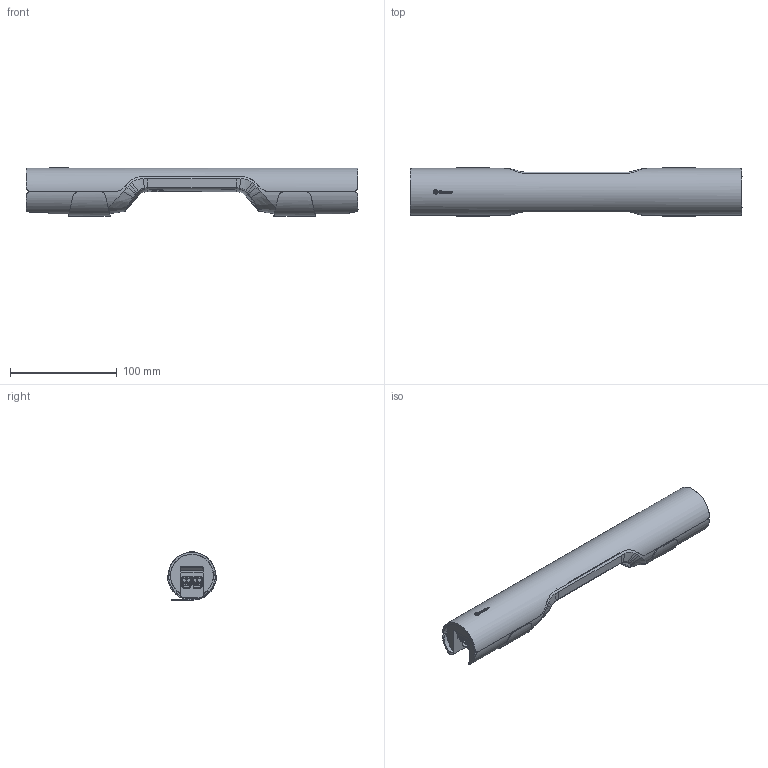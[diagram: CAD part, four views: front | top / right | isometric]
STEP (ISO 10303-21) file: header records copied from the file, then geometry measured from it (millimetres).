
FILE_DESCRIPTION(/* description */ ('Unknown'),/* implementation_level */ '2;1');
FILE_NAME(/* name */ '7L.4X.0.Y.0100',/* time_stamp */ '2020-09-24T14:02:11+02:00',/* author */ ('Unknown'),/* organization */ ('Unknown'),/* preprocessor_version */ 'ST-DEVELOPER v16.7',/* originating_system */ 'DEX',/* authorisation */ $);
FILE_SCHEMA (('AUTOMOTIVE_DESIGN {1 0 10303 214 3 1 1}'));
Products named in the file (1): 7L.4X.0.Y.0100
Bounding box: 310.57 x 46 x 45.23 mm (x, y, z)
Surface area: 71859.3 mm2 (no closed solid volume)
Topology: 0 solids, 19 shells, 1536 faces, 4906 edges, 3393 vertices
Faces by surface type: plane 1165, cylinder 186, bspline 156, torus 21, cone 5, sphere 3
Full cylindrical faces by diameter (mm): 1.75 x2, 3.3 x2, 4 x2, 4.2 x2, 4.25 x2, 4.263 x1
Entity records: 66794 total; most frequent: CARTESIAN_POINT 21754, ORIENTED_EDGE 8919, DIRECTION 7205, EDGE_CURVE 4882, LINE 3493, VECTOR 3493, VERTEX_POINT 3391, AXIS2_PLACEMENT_3D 1856
